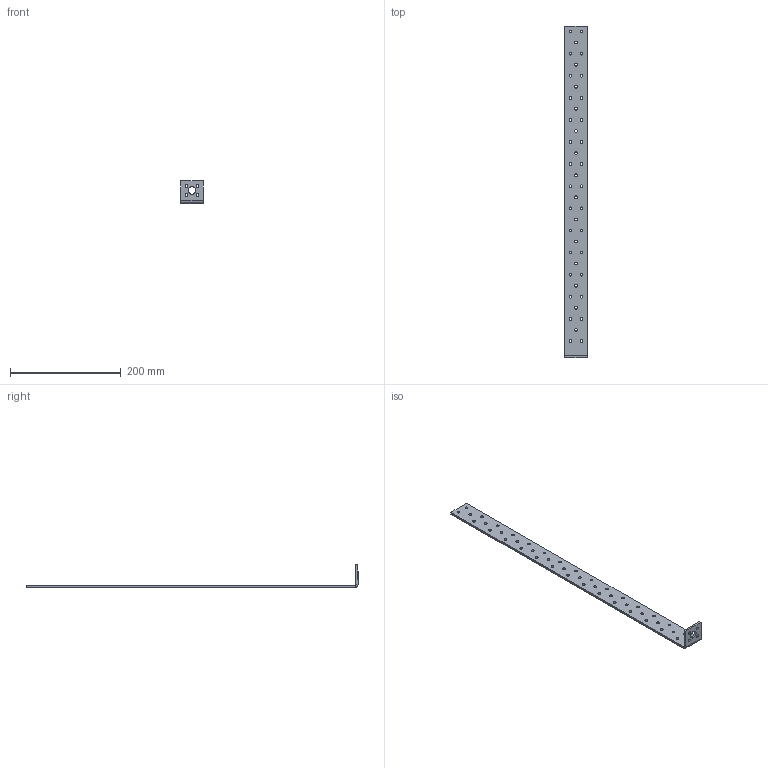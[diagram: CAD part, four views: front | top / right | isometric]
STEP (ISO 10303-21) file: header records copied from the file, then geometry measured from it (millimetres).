
FILE_DESCRIPTION (( 'STEP AP203' ), '1' );
FILE_NAME ('90513.STEP', '2021-06-22T14:21:22', ( '' ), ( '' ), 'SwSTEP 2.0', 'SolidWorks 2013', '' );
FILE_SCHEMA (( 'CONFIG_CONTROL_DESIGN' ));
Length unit declared in the file: millimetre
Products named in the file (1): 90513
Bounding box: 40 x 600.84 x 40.84 mm (x, y, z)
Volume: 97456.5 mm3; surface area: 57332.2 mm2
Topology: 1 solids, 1 shells, 112 faces, 322 edges, 212 vertices
Faces by surface type: cylinder 100, plane 12
Entity records: 4057 total; most frequent: DIRECTION 748, CARTESIAN_POINT 647, ORIENTED_EDGE 644, EDGE_CURVE 322, AXIS2_PLACEMENT_3D 313, VERTEX_POINT 212, EDGE_LOOP 210, CIRCLE 200
